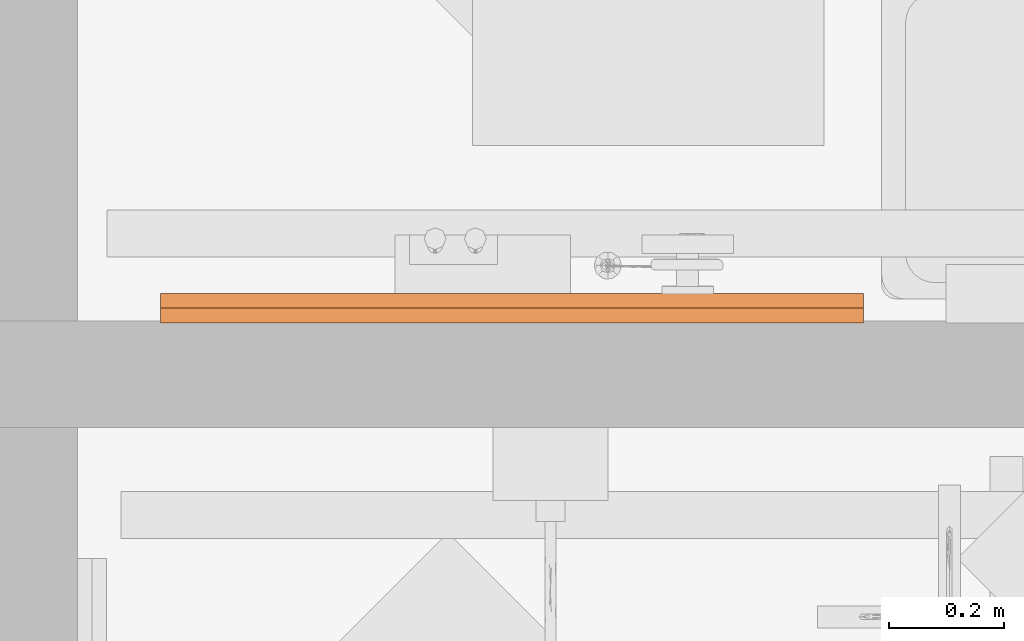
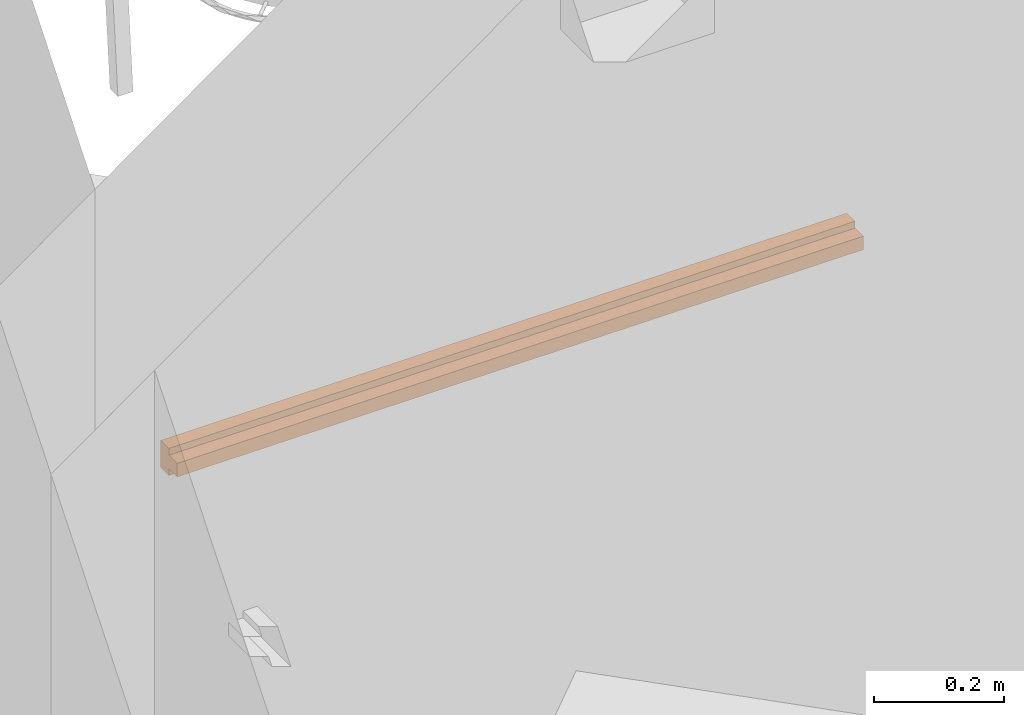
# One storey, part 12 of 142: 1 proxy.
"""IFC2X3 building model written with IfcOpenShell, lengths in feet."""

from ifc_helpers import new_model, entity, si_unit, converted_unit, derived_unit, direction, frame, origin, place, context, subcontext, project, spatial, polyline, outline, extrude, source, transform, mapped, type_object, type_shapes, element, save


model = new_model("IFC2X3")

# Units and contexts
model_context = context("Model", 3, precision=0.0001, world=origin(), true_north=direction((6.12303176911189e-17, 1.0)))
body_context = subcontext(model_context, "Body", "Model", "MODEL_VIEW")
ifc_project = project(units=[converted_unit("LENGTHUNIT", "FOOT", entity("IfcRatioMeasure", 0.3048), si_unit("LENGTHUNIT", "METRE"), dimensions=[1, 0, 0, 0, 0, 0, 0]), converted_unit("AREAUNIT", "SQUARE FOOT", entity("IfcRatioMeasure", 0.09290304), si_unit("AREAUNIT", "SQUARE_METRE"), dimensions=[2, 0, 0, 0, 0, 0, 0]), converted_unit("VOLUMEUNIT", "CUBIC FOOT", entity("IfcRatioMeasure", 0.028316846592), si_unit("VOLUMEUNIT", "CUBIC_METRE"), dimensions=[3, 0, 0, 0, 0, 0, 0]), converted_unit("PLANEANGLEUNIT", "DEGREE", entity("IfcRatioMeasure", 0.0174532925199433), si_unit("PLANEANGLEUNIT", "RADIAN"), dimensions=[0, 0, 0, 0, 0, 0, 0]), si_unit("MASSUNIT", "GRAM", prefix="KILO"), derived_unit("MASSDENSITYUNIT", [(si_unit("MASSUNIT", "GRAM", prefix="KILO"), 1), (si_unit("LENGTHUNIT", "METRE"), -3)]), si_unit("TIMEUNIT", "SECOND"), si_unit("FREQUENCYUNIT", "HERTZ"), si_unit("THERMODYNAMICTEMPERATUREUNIT", "DEGREE_CELSIUS"), derived_unit("THERMALTRANSMITTANCEUNIT", [(si_unit("MASSUNIT", "GRAM", prefix="KILO"), 1), (si_unit("THERMODYNAMICTEMPERATUREUNIT", "KELVIN"), -1), (si_unit("TIMEUNIT", "SECOND"), -3)]), derived_unit("VOLUMETRICFLOWRATEUNIT", [(si_unit("LENGTHUNIT", "METRE"), 3), (si_unit("TIMEUNIT", "SECOND"), -1)]), si_unit("ELECTRICCURRENTUNIT", "AMPERE"), si_unit("ELECTRICVOLTAGEUNIT", "VOLT"), si_unit("POWERUNIT", "WATT"), si_unit("FORCEUNIT", "NEWTON"), si_unit("ILLUMINANCEUNIT", "LUX"), si_unit("LUMINOUSFLUXUNIT", "LUMEN"), si_unit("LUMINOUSINTENSITYUNIT", "CANDELA"), derived_unit("USERDEFINED", [(si_unit("MASSUNIT", "GRAM", prefix="KILO"), -1), (si_unit("LENGTHUNIT", "METRE"), -2), (si_unit("TIMEUNIT", "SECOND"), 3), (si_unit("LUMINOUSFLUXUNIT", "LUMEN"), 1)]), derived_unit("LINEARVELOCITYUNIT", [(si_unit("LENGTHUNIT", "METRE"), 1), (si_unit("TIMEUNIT", "SECOND"), -1)]), si_unit("PRESSUREUNIT", "PASCAL"), derived_unit("USERDEFINED", [(si_unit("LENGTHUNIT", "METRE"), -2), (si_unit("MASSUNIT", "GRAM", prefix="KILO"), 1), (si_unit("TIMEUNIT", "SECOND"), -2)])], contexts=[model_context])

# Site, building, storey, space
site_placement = place(None, origin())
site = spatial("IfcSite", under=ifc_project, at=site_placement, Name="Default", CompositionType="ELEMENT")
building_placement = place(site_placement, origin())
building = spatial("IfcBuilding", under=site, at=building_placement, Name="OUTPATIENT / PACT CLINIC (Ch. 265)", CompositionType="ELEMENT")
storey_placement = place(building_placement, origin())
storey = spatial("IfcBuildingStorey", under=building, at=storey_placement, Name="LEVEL 1", CompositionType="ELEMENT", Elevation=0.0)
space_placement = place(storey_placement, origin())
space = spatial("IfcSpace", under=storey, at=space_placement, Name="EXPA01", CompositionType="ELEMENT", InteriorOrExteriorSpace="INTERNAL")

# Proxy
building_element_proxy_type = type_object("IfcBuildingElementProxyType", Name="A1132 - Rail, Accessory Mounting", PredefinedType="NOTDEFINED")
shared_shape = source(origin(), body_context, "Body", "SweptSolid", [
    extrude(outline(polyline([(0.0416666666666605, 0.0), (0.0833333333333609, 0.0), (0.083333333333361, 0.0833333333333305), (-0.0833333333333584, 0.0833333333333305), (-0.0833333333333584, 0.0), (-0.0416666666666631, 0.0), (-0.0416666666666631, -0.0833333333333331), (0.0416666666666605, -0.0833333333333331), (0.0416666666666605, 0.0)])), frame((-2.0, -0.0833333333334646, 0.0833333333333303), z_axis=(1.0, 0.0, 0.0), x_axis=(0.0, 0.0, 1.0)), (0.0, 0.0, 1.0), 4.0),
])
type_shapes(building_element_proxy_type, [shared_shape])
proxy_placement = place(space_placement, frame((393.437268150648, -931.451096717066, 4.0), z_axis=(0.0, 0.0, 1.0), x_axis=(-1.0, 0.0, 0.0)))
element("IfcBuildingElementProxy", 1, at=proxy_placement, inside=space, type_object=building_element_proxy_type, Name="A1132 - Rail, Accessory Mounting:A1132 - Rail, Accessory Mounting", ObjectType="A1132 - Rail, Accessory Mounting", context=body_context, shape_type="MappedRepresentation", body=[
    mapped(shared_shape, transform((0.0, 0.0, 0.0), scale=1.0)),
])

save(model, "model.ifc")
